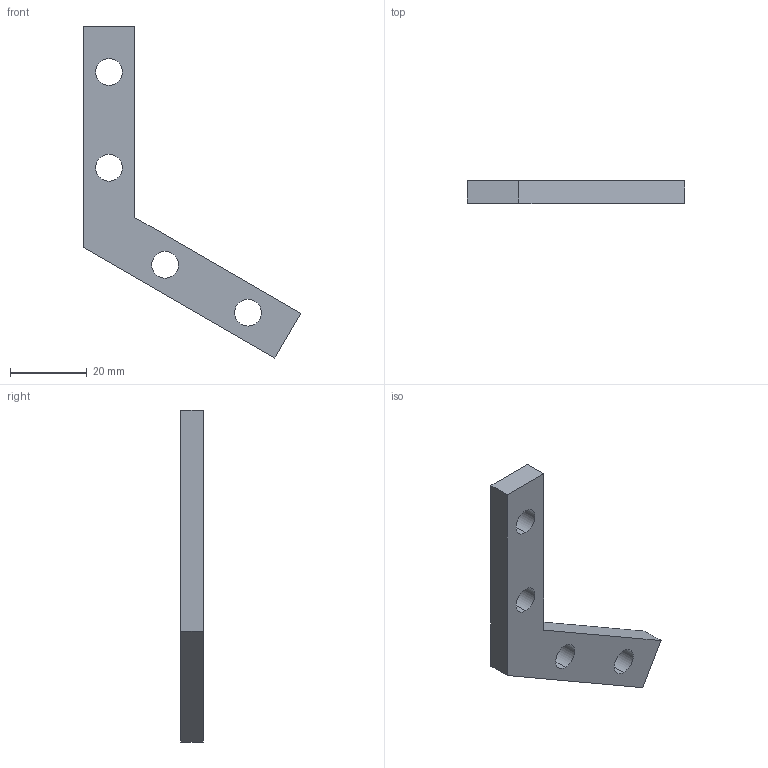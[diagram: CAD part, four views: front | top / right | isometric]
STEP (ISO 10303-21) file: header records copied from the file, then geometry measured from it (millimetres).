
FILE_DESCRIPTION (( 'STEP AP214' ), '1' );
FILE_NAME ('SF01024.step', '2024-12-03T16:29:37', ( '' ), ( '' ), 'SwSTEP 2.0', 'SolidWorks 2023', '' );
FILE_SCHEMA (( 'AUTOMOTIVE_DESIGN' ));
Length unit declared in the file: millimetre
Products named in the file (1): SF01024
Bounding box: 56.8 x 6 x 86.69 mm (x, y, z)
Volume: 7807.7 mm3; surface area: 4585.9 mm2
Topology: 1 solids, 1 shells, 16 faces, 42 edges, 28 vertices
Faces by surface type: cylinder 8, plane 8
Entity records: 541 total; most frequent: DIRECTION 92, CARTESIAN_POINT 87, ORIENTED_EDGE 84, EDGE_CURVE 42, AXIS2_PLACEMENT_3D 33, VERTEX_POINT 28, VECTOR 26, LINE 26
